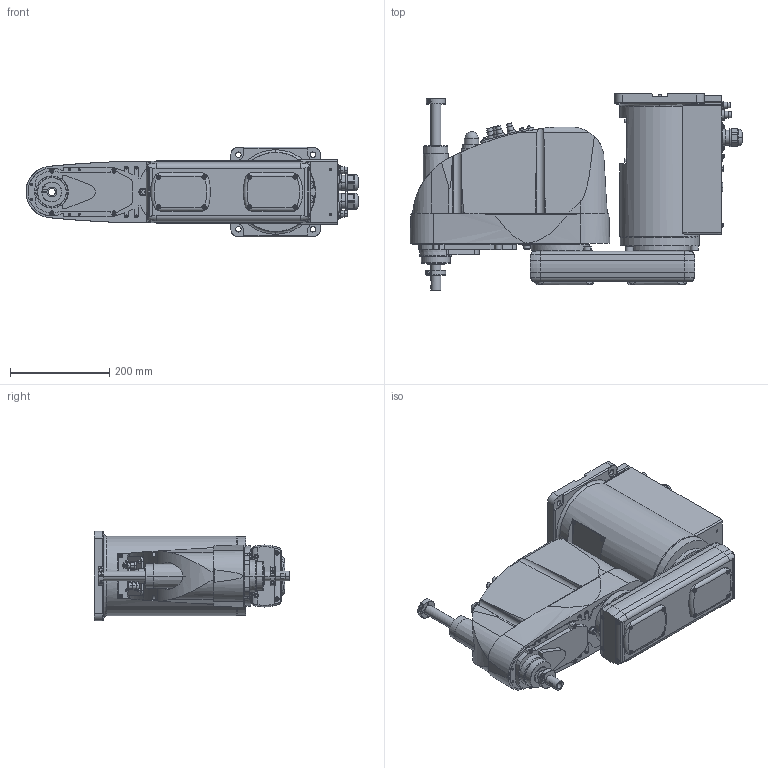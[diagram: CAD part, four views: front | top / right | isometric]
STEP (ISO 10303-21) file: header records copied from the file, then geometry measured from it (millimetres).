
FILE_DESCRIPTION( ( '' ), '1' );
FILE_NAME( '//expscmdclustefs.cadenas.external/client_exchange/iodir/jobs/output/wkb51531699_no0/STEP/G6_451SR_2_14b.stp', '2012-11-23T08:15:18', ( '' ), ( '' ), ' ', ' ', ' ' );
FILE_SCHEMA( ( 'automotive_design' ) );
Length unit declared in the file: millimetre
Products named in the file (4): 1; 2; 3; 4
Bounding box: 667.5 x 394 x 180 mm (x, y, z)
Volume: 19446924 mm3; surface area: 837143.9 mm2
Topology: 4 solids, 4 shells, 1619 faces, 3961 edges, 2553 vertices
Faces by surface type: plane 831, cylinder 556, cone 204, torus 27, sphere 1
Entity records: 96065 total; most frequent: CARTESIAN_POINT 11630, DIRECTION 8326, STYLED_ITEM 8111, PRESENTATION_STYLE_ASSIGNMENT 8111, COLOUR_RGB 8111, ORIENTED_EDGE 7870, EDGE_CURVE 3935, CURVE_STYLE 3935
